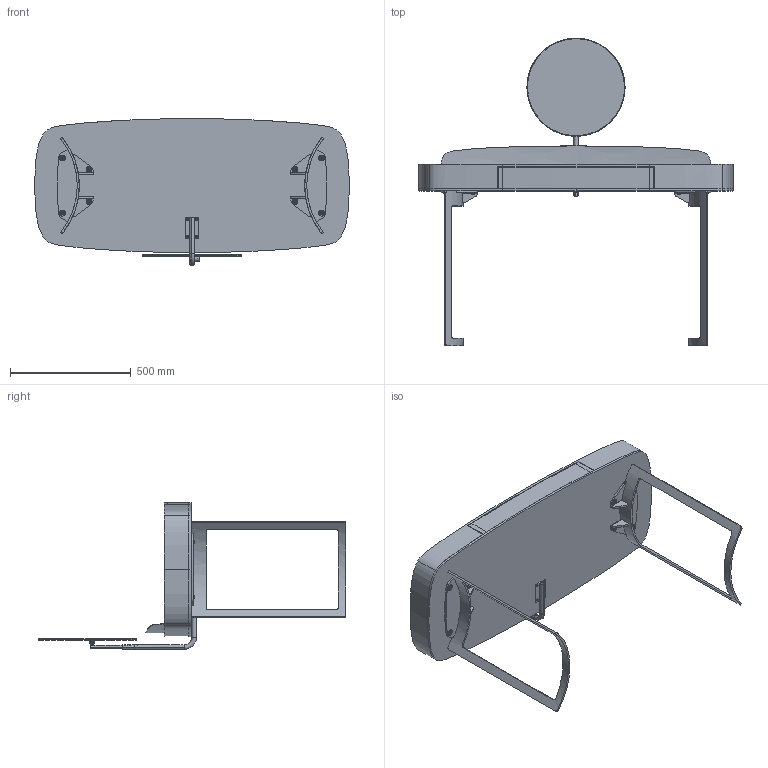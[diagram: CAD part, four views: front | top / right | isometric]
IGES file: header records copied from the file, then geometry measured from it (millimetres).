
Start section: SolidWorks IGES file using analytic representation for surfaces
Global section: file name: Y:\eforma\TECNICO\SOLIDWORKS\E-FORMA\7-SCRIVANIE\LIRA\02 parts\LY02W_Lyra Vanity_130x61x75h.IGS; native system: SolidWorks 2022; preprocessor: SolidWorks 2022; author: eforma.tech; date: 240806.091546; units: millimetre
Bounding box: 1302 x 1272.48 x 607 mm (x, y, z)
Volume: 52875293.2 mm3; surface area: 5536733.5 mm2
Topology: 36 solids, 36 shells, 901 faces, 2178 edges, 1336 vertices
Faces by surface type: revolution 535, plane 327, bspline 39
